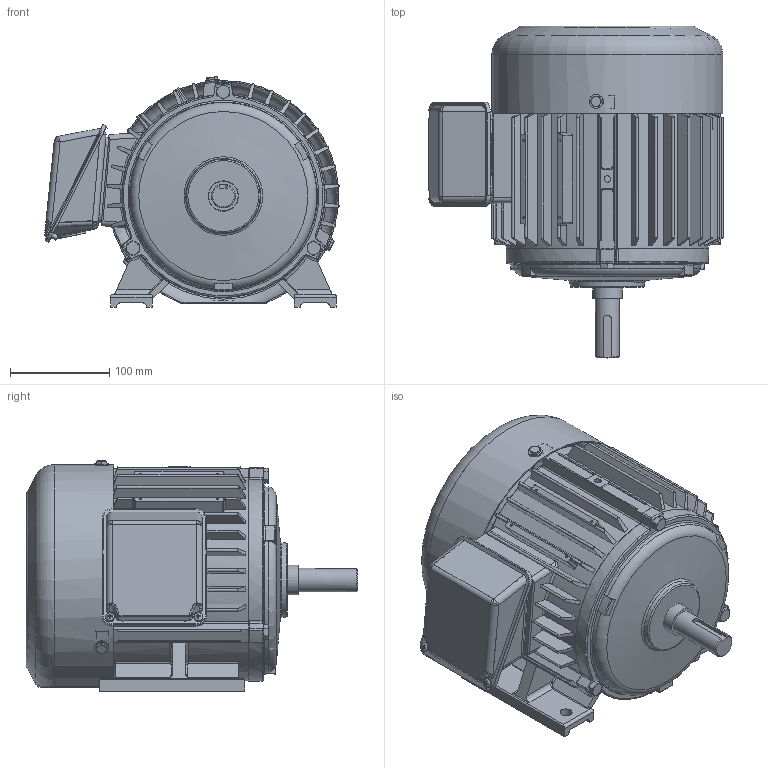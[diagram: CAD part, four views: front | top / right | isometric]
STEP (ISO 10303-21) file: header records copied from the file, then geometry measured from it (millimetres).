
FILE_DESCRIPTION(/* description */ ('Unknown'),/* implementation_level */ '2;1');
FILE_NAME(/* name */ '1-SMA-31980_외형도',/* time_stamp */ '2026-07-24T08:13:53+09:00',/* author */ ('Unknown'),/* organization */ ('Unknown'),/* preprocessor_version */ 'ST-DEVELOPER v16',/* originating_system */ 'DEX',/* authorisation */ $);
FILE_SCHEMA (('AUTOMOTIVE_DESIGN {1 0 10303 214 3 1 1}'));
Length unit declared in the file: millimetre
Products named in the file (18): 1-SMA-31980_寇屈; 2-SMA-30870_FRAME(194DIA); 3-SMA-30871N_擅粽塭鰍(194D; 4-SMA-30872N_菴粽塭鰍(194D; 5-SMA-30873_SHAFT(194DIA); 6-SMA-31243_FAN(194DIA); 7-SMA-30644_FAN COVER(194DIA); 幫陝獐お M8x1.25x; 幫陝 M6x1x1010L; 蹴辨 S2nceRefs; 6206ZZ; 2.2~3.7kW(3~5HP)_ﾅﾍｹﾌｳﾎ ｹﾚｽｺ(178, 194ｻｱ ; T-BOX 憶っ(178~194DIA; 8-SMA-33042_T-BOX(鼻)(194DIA); 9-SMA-33043_T-BOX(ж)(194DIA); T-BOX ÀÓ½Ã ÄÉÀÌºí±×·£µå(178~ë“œ(178~194DIA); 褊濠 菅斬 該葬 獐お M5x; 6205ZZ
Assembly tree (25 placements, depth 3):
  1-SMA-31980_寇屈
    2-SMA-30870_FRAME(194DIA)
    3-SMA-30871N_擅粽塭鰍(194D
    4-SMA-30872N_菴粽塭鰍(194D
    5-SMA-30873_SHAFT(194DIA)
    6-SMA-31243_FAN(194DIA)
    7-SMA-30644_FAN COVER(194DIA)
    幫陝獐お M8x1.25x  x6
    幫陝 M6x1x1010L  x3
    蹴辨 S2nceRefs
    6206ZZ
    2.2~3.7kW(3~5HP)_ﾅﾍｹﾌｳﾎ ｹﾚｽｺ(178, 194ｻｱ 
      T-BOX 憶っ(178~194DIA
      8-SMA-33042_T-BOX(鼻)(194DIA)
      9-SMA-33043_T-BOX(ж)(194DIA)
      T-BOX ÀÓ½Ã ÄÉÀÌºí±×·£µå(178~ë“œ(178~194DIA)
      褊濠 菅斬 該葬 獐お M5x  x2
    6205ZZ
Bounding box: 296.2 x 334 x 232.13 mm (x, y, z)
Volume: 2011463 mm3; surface area: 933926.5 mm2
Topology: 46 solids, 46 shells, 1706 faces, 4314 edges, 2702 vertices
Faces by surface type: plane 554, cylinder 516, cone 297, torus 172, bspline 129, sphere 38
Full cylindrical faces by diameter (mm): 2 x2, 2.2 x4, 4.134 x2, 4.917 x2, 5 x2, 6 x8, 6.6 x4, 6.647 x13, 7 x2, 8 x12, 9 x2, 10 x6, 12 x4, 14 x3, 22 x1, 24 x1, 24.8 x1, 25 x2, 25.6 x1, 28 x2, 29.8 x1, 30 x2, 30.6 x1, 31.1 x1, 32.714 x2, 33.114 x2, 34 x1, 39.143 x2, 39.543 x2, 40 x4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
Entity records: 66702 total; most frequent: CARTESIAN_POINT 27118, ORIENTED_EDGE 7332, DIRECTION 7209, EDGE_CURVE 3666, AXIS2_PLACEMENT_3D 2932, VERTEX_POINT 2422, FACE_BOUND 1904, EDGE_LOOP 1878
